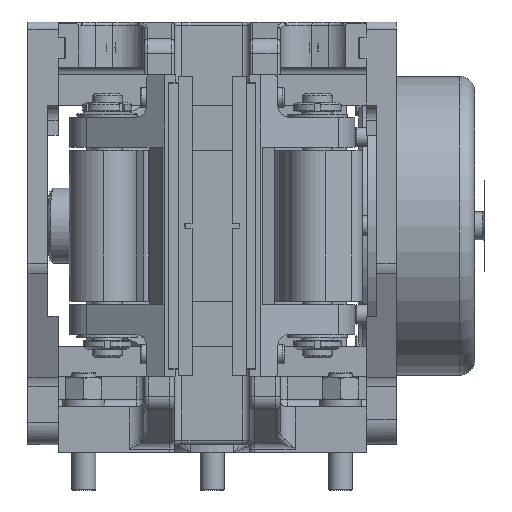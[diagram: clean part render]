
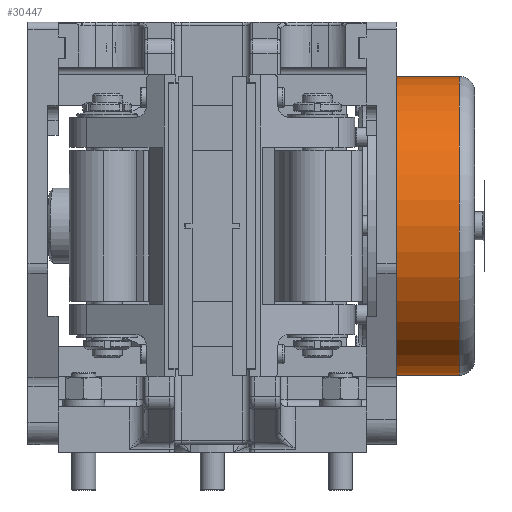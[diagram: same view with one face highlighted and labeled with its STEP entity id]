
A CAD part, front view. The second image highlights one B-rep face of the part: STEP entity #30447.
In plain terms, the highlighted cylindrical face has radius 99 mm (diameter 198 mm), a full revolution.
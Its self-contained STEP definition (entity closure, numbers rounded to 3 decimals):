
#2343=FACE_OUTER_BOUND('',#4090,.T.);
#4090=EDGE_LOOP('',(#20400,#20401,#20402,#20403,#20404,#20405,#20406,#20407,
#20408));
#5989=LINE('',#45878,#8120);
#8120=VECTOR('',#36668,99.);
#10146=CIRCLE('',#32151,99.);
#10147=CIRCLE('',#32152,99.);
#10148=CIRCLE('',#32153,99.);
#10149=CIRCLE('',#32154,99.);
#10296=CIRCLE('',#32444,99.);
#10297=CIRCLE('',#32445,99.);
#10298=CIRCLE('',#32446,99.);
#11911=VERTEX_POINT('',#44972);
#11912=VERTEX_POINT('',#44973);
#11913=VERTEX_POINT('',#44975);
#11914=VERTEX_POINT('',#44977);
#12170=VERTEX_POINT('',#45873);
#12171=VERTEX_POINT('',#45874);
#12172=VERTEX_POINT('',#45876);
#14932=EDGE_CURVE('',#11911,#11912,#10146,.T.);
#14933=EDGE_CURVE('',#11913,#11911,#10147,.T.);
#14934=EDGE_CURVE('',#11914,#11913,#10148,.T.);
#14936=EDGE_CURVE('',#11912,#11914,#10149,.T.);
#15305=EDGE_CURVE('',#12170,#12171,#10296,.T.);
#15306=EDGE_CURVE('',#12172,#12170,#10297,.T.);
#15307=EDGE_CURVE('',#12172,#11912,#5989,.T.);
#15308=EDGE_CURVE('',#12171,#12172,#10298,.T.);
#20400=ORIENTED_EDGE('',*,*,#15305,.F.);
#20401=ORIENTED_EDGE('',*,*,#15306,.F.);
#20402=ORIENTED_EDGE('',*,*,#15307,.T.);
#20403=ORIENTED_EDGE('',*,*,#14936,.T.);
#20404=ORIENTED_EDGE('',*,*,#14934,.T.);
#20405=ORIENTED_EDGE('',*,*,#14933,.T.);
#20406=ORIENTED_EDGE('',*,*,#14932,.T.);
#20407=ORIENTED_EDGE('',*,*,#15307,.F.);
#20408=ORIENTED_EDGE('',*,*,#15308,.F.);
#28378=CYLINDRICAL_SURFACE('',#32443,99.);
#30447=ADVANCED_FACE('',(#2343),#28378,.T.);
#32151=AXIS2_PLACEMENT_3D('',#44974,#35918,#35919);
#32152=AXIS2_PLACEMENT_3D('',#44976,#35920,#35921);
#32153=AXIS2_PLACEMENT_3D('',#44978,#35922,#35923);
#32154=AXIS2_PLACEMENT_3D('',#44980,#35925,#35926);
#32443=AXIS2_PLACEMENT_3D('',#45872,#36662,#36663);
#32444=AXIS2_PLACEMENT_3D('',#45875,#36664,#36665);
#32445=AXIS2_PLACEMENT_3D('',#45877,#36666,#36667);
#32446=AXIS2_PLACEMENT_3D('',#45879,#36669,#36670);
#35918=DIRECTION('center_axis',(1.,0.,0.));
#35919=DIRECTION('ref_axis',(0.,-0.174,0.985));
#35920=DIRECTION('center_axis',(1.,0.,0.));
#35921=DIRECTION('ref_axis',(0.,-0.174,0.985));
#35922=DIRECTION('center_axis',(1.,0.,0.));
#35923=DIRECTION('ref_axis',(0.,-0.174,0.985));
#35925=DIRECTION('center_axis',(1.,0.,0.));
#35926=DIRECTION('ref_axis',(0.,-0.174,0.985));
#36662=DIRECTION('center_axis',(1.,0.,0.));
#36663=DIRECTION('ref_axis',(0.,-0.174,0.985));
#36664=DIRECTION('center_axis',(1.,0.,0.));
#36665=DIRECTION('ref_axis',(0.,-0.174,0.985));
#36666=DIRECTION('center_axis',(1.,0.,0.));
#36667=DIRECTION('ref_axis',(0.,-0.174,0.985));
#36668=DIRECTION('',(-1.,0.,0.));
#36669=DIRECTION('center_axis',(1.,0.,0.));
#36670=DIRECTION('ref_axis',(0.,-0.174,0.985));
#44972=CARTESIAN_POINT('',(112.1,211.,150.));
#44973=CARTESIAN_POINT('',(112.1,327.191,52.504));
#44974=CARTESIAN_POINT('Origin',(112.1,310.,150.));
#44975=CARTESIAN_POINT('',(112.1,292.809,247.496));
#44976=CARTESIAN_POINT('Origin',(112.1,310.,150.));
#44977=CARTESIAN_POINT('',(112.1,409.,150.));
#44978=CARTESIAN_POINT('Origin',(112.1,310.,150.));
#44980=CARTESIAN_POINT('Origin',(112.1,310.,150.));
#45872=CARTESIAN_POINT('Origin',(137.972,310.,150.));
#45873=CARTESIAN_POINT('',(163.844,292.809,247.496));
#45874=CARTESIAN_POINT('',(163.844,212.504,132.809));
#45875=CARTESIAN_POINT('Origin',(163.844,310.,150.));
#45876=CARTESIAN_POINT('',(163.844,327.191,52.504));
#45877=CARTESIAN_POINT('Origin',(163.844,310.,150.));
#45878=CARTESIAN_POINT('',(137.972,327.191,52.504));
#45879=CARTESIAN_POINT('Origin',(163.844,310.,150.));
